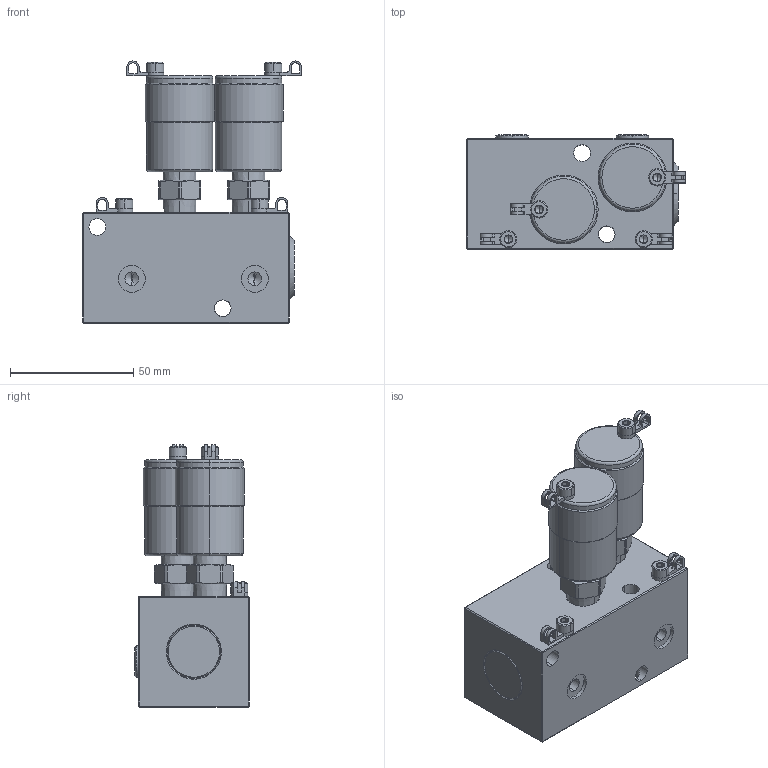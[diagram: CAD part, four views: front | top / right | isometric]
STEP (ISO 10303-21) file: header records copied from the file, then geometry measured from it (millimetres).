
FILE_DESCRIPTION(/* description */ (''),/* implementation_level */ '2;1');
FILE_NAME(/* name */ 'BGF022-B.stp',/* time_stamp */ '2023-11-18T16:25:00+08:00',/* author */ (''),/* organization */ (''),/* preprocessor_version */ 'ST-DEVELOPER v16.7',/* originating_system */ 'SIEMENS PLM Software NX 12.0',/* authorisation */ '');
FILE_SCHEMA (('AP203_CONFIGURATION_CONTROLLED_3D_DESIGN_OF_MECHANICAL_PARTS_AND_ASSEMBLIES_MIM_LF { 1 0 10303 403 2 1 2}'));
Length unit declared in the file: millimetre
Products named in the file (8): BGF022-B-07; BGF022-B-06; BGF022-B-05; BGF022-B-02; BGF022-B-03; BGF022-B-04; BGF022-B-01; BEQ02x0-0GB_step
Assembly tree (17 placements, depth 2):
  BEQ02x0-0GB_step
    BGF022-B-01
    BGF022-B-04  x2
    BGF022-B-03  x2
    BGF022-B-02  x2
    BGF022-B-05  x2
    BGF022-B-06  x4
    BGF022-B-07  x4
Bounding box: 89 x 46.5 x 106.5 mm (x, y, z)
Volume: 209555.9 mm3; surface area: 51708.2 mm2
Topology: 19 solids, 19 shells, 556 faces, 1260 edges, 740 vertices
Faces by surface type: plane 210, cylinder 164, cone 162, torus 20
Entity records: 8810 total; most frequent: CARTESIAN_POINT 1412, DIRECTION 1406, ORIENTED_EDGE 1200, EDGE_CURVE 600, AXIS2_PLACEMENT_3D 555, VERTEX_POINT 367, EDGE_LOOP 311, LINE 296
